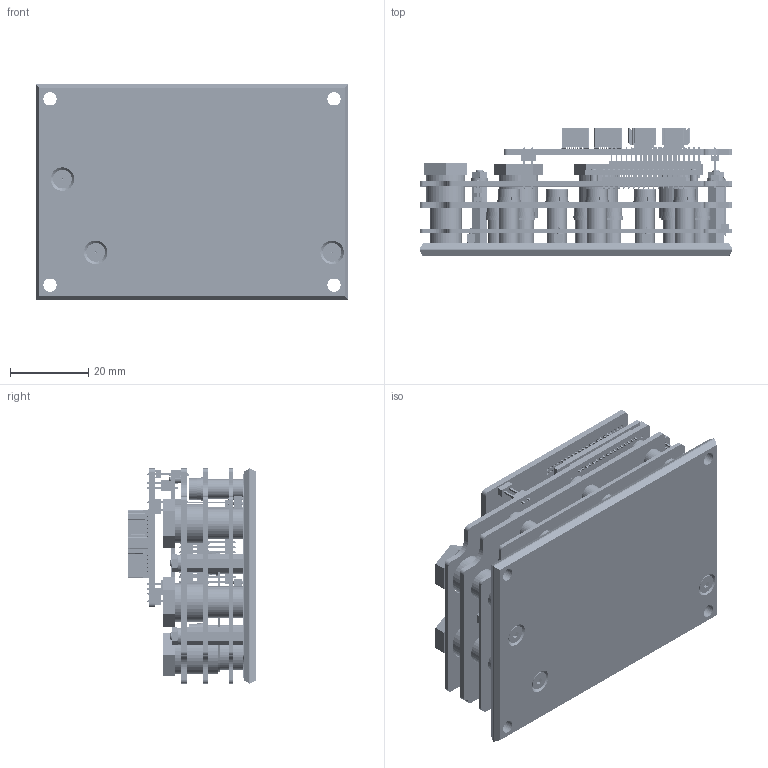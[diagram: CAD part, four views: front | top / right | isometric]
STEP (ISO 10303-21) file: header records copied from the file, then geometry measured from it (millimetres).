
FILE_DESCRIPTION (( 'STEP AP203' ), '1' );
FILE_NAME ('G-TTWI.STEP', '2021-03-11T13:20:44', ( '' ), ( '' ), 'SwSTEP 2.0', 'SolidWorks 2020', '' );
FILE_SCHEMA (( 'CONFIG_CONTROL_DESIGN' ));
Products named in the file (1): G-TTWI
Bounding box: 80.01 x 32.81 x 54.99 mm (x, y, z)
Volume: 43415.4 mm3; surface area: 69055.8 mm2
Topology: 146 solids, 146 shells, 5947 faces, 15089 edges, 9742 vertices
Faces by surface type: plane 4787, cylinder 864, cone 192, torus 84, sphere 20
Full cylindrical faces by diameter (mm): 0.2 x3, 0.406 x20, 0.6 x45, 0.7 x72, 0.8 x137, 0.805 x40, 0.864 x29, 0.9 x64, 1.2 x10, 1.3 x4, 1.6 x3, 2 x10, 2.05 x9, 2.2 x3, 2.4 x3, 2.5 x17, 2.7 x3, 2.8 x3, 2.85 x3, 3 x11, 3.2 x11, 3.3 x10, 3.4 x10, 4 x5, 4.5 x8, 4.8 x3, 5 x16, 5.1 x3, 5.4 x9, 5.5 x11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
Entity records: 173426 total; most frequent: CARTESIAN_POINT 31135, ORIENTED_EDGE 28182, DIRECTION 27968, EDGE_CURVE 14091, VECTOR 11754, LINE 11754, VERTEX_POINT 9601, EDGE_LOOP 8138
